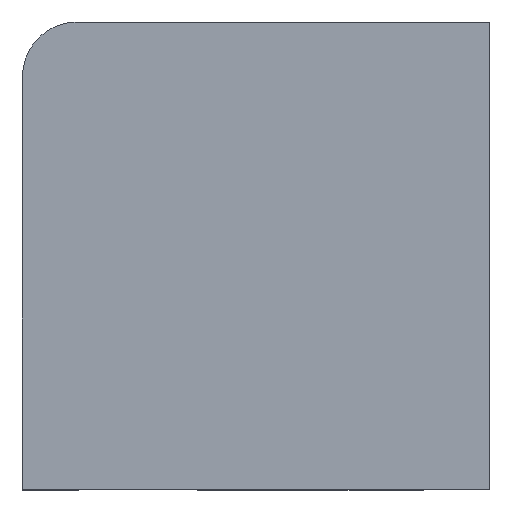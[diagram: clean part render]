
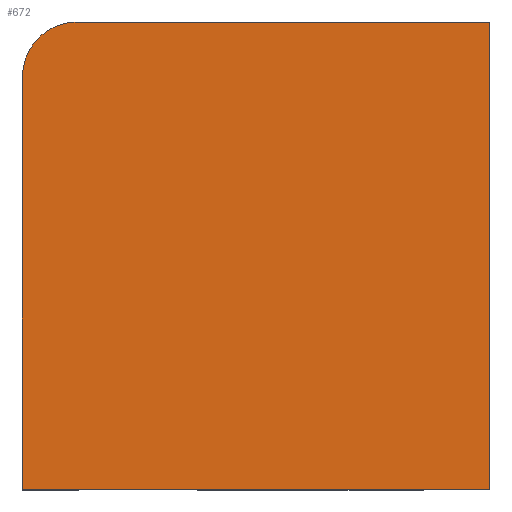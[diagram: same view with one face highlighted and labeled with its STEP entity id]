
A CAD part, top view. The second image highlights one B-rep face of the part: STEP entity #672.
In plain terms, the highlighted planar face has unit normal (0, 0, 1).
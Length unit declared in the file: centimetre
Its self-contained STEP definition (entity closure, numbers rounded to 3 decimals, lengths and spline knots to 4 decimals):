
#5 = DIRECTION ( 'NONE',  ( 0., -1., 0. ) ) ;
#17 = DIRECTION ( 'NONE',  ( 1., 0., 0. ) ) ;
#24 = DIRECTION ( 'NONE',  ( 0., 1., 0. ) ) ;
#30 = VECTOR ( 'NONE', #564, 100. ) ;
#42 = ORIENTED_EDGE ( 'NONE', *, *, #556, .T. ) ;
#73 = CARTESIAN_POINT ( 'NONE',  ( 1000., 1000., 1000. ) ) ;
#77 = PLANE ( 'NONE',  #228 ) ;
#107 = CARTESIAN_POINT ( 'NONE',  ( 0., 1000., 1000. ) ) ;
#108 = VERTEX_POINT ( 'NONE', #509 ) ;
#124 = EDGE_CURVE ( 'NONE', #156, #596, #565, .T. ) ;
#126 = FACE_OUTER_BOUND ( 'NONE', #532, .T. ) ;
#156 = VERTEX_POINT ( 'NONE', #202 ) ;
#175 = LINE ( 'NONE', #548, #382 ) ;
#180 = CARTESIAN_POINT ( 'NONE',  ( 0., 0., 1000. ) ) ;
#181 = VECTOR ( 'NONE', #489, 100. ) ;
#196 = ORIENTED_EDGE ( 'NONE', *, *, #124, .T. ) ;
#202 = CARTESIAN_POINT ( 'NONE',  ( 1000., 0., 1000. ) ) ;
#222 = ORIENTED_EDGE ( 'NONE', *, *, #362, .T. ) ;
#228 = AXIS2_PLACEMENT_3D ( 'NONE', #342, #290, #17 ) ;
#237 = CARTESIAN_POINT ( 'NONE',  ( 117.1684, 1000., 1000. ) ) ;
#271 = LINE ( 'NONE', #107, #181 ) ;
#290 = DIRECTION ( 'NONE',  ( 0., 0., 1. ) ) ;
#306 = EDGE_CURVE ( 'NONE', #596, #570, #271, .T. ) ;
#321 = AXIS2_PLACEMENT_3D ( 'NONE', #510, #460, #338 ) ;
#338 = DIRECTION ( 'NONE',  ( 1., 0., 0. ) ) ;
#342 = CARTESIAN_POINT ( 'NONE',  ( 0., 0., 1000. ) ) ;
#362 = EDGE_CURVE ( 'NONE', #594, #108, #175, .T. ) ;
#382 = VECTOR ( 'NONE', #5, 100. ) ;
#394 = CARTESIAN_POINT ( 'NONE',  ( 0., 882.8316, 1000. ) ) ;
#406 = CARTESIAN_POINT ( 'NONE',  ( 1000., 1000., 1000. ) ) ;
#446 = CIRCLE ( 'NONE', #321, 117.1684 ) ;
#460 = DIRECTION ( 'NONE',  ( 0., 0., 1. ) ) ;
#465 = ORIENTED_EDGE ( 'NONE', *, *, #306, .T. ) ;
#489 = DIRECTION ( 'NONE',  ( -1., 0., 0. ) ) ;
#509 = CARTESIAN_POINT ( 'NONE',  ( 0., 0., 1000. ) ) ;
#510 = CARTESIAN_POINT ( 'NONE',  ( 117.1684, 882.8316, 1000. ) ) ;
#525 = VECTOR ( 'NONE', #24, 100. ) ;
#532 = EDGE_LOOP ( 'NONE', ( #465, #582, #222, #42, #196 ) ) ;
#534 = EDGE_CURVE ( 'NONE', #570, #594, #446, .T. ) ;
#548 = CARTESIAN_POINT ( 'NONE',  ( 0., 1000., 1000. ) ) ;
#556 = EDGE_CURVE ( 'NONE', #108, #156, #625, .T. ) ;
#564 = DIRECTION ( 'NONE',  ( 1., 0., 0. ) ) ;
#565 = LINE ( 'NONE', #73, #525 ) ;
#570 = VERTEX_POINT ( 'NONE', #237 ) ;
#582 = ORIENTED_EDGE ( 'NONE', *, *, #534, .T. ) ;
#594 = VERTEX_POINT ( 'NONE', #394 ) ;
#596 = VERTEX_POINT ( 'NONE', #406 ) ;
#625 = LINE ( 'NONE', #180, #30 ) ;
#672 = ADVANCED_FACE ( 'NONE', ( #126 ), #77, .T. ) ;
